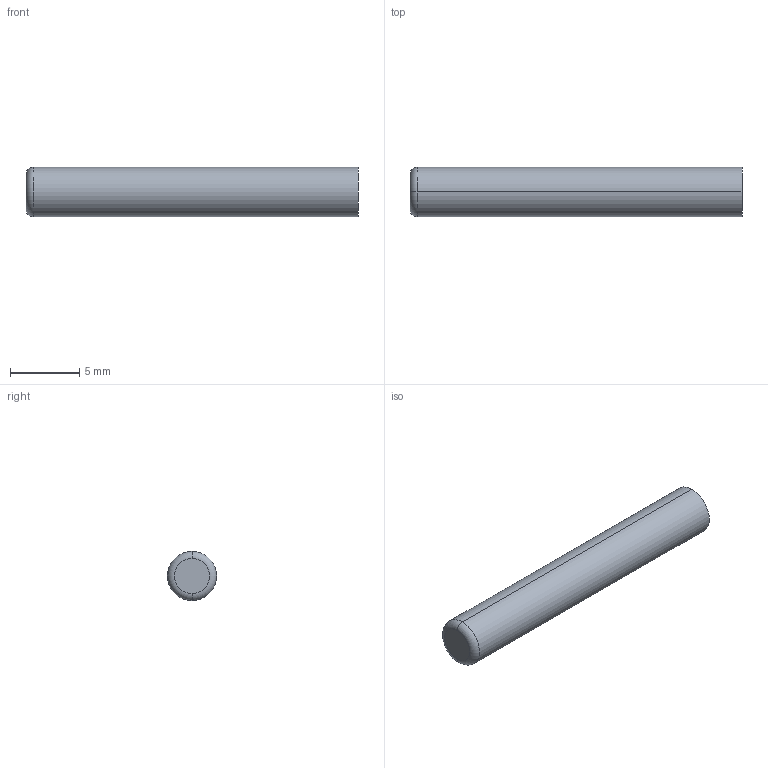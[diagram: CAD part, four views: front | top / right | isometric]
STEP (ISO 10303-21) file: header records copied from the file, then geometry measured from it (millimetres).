
FILE_DESCRIPTION (( 'STEP AP203' ), '1' );
FILE_NAME ('japanese-gun-001-recoil-lever.STEP', '2013-11-16T22:56:27', ( 'Kirk' ), ( 'Microsoft' ), 'SwSTEP 2.0', 'SolidWorks 2012', '' );
FILE_SCHEMA (( 'CONFIG_CONTROL_DESIGN' ));
Length unit declared in the file: inch
Products named in the file (1): japanese-gun-001-recoil-lever
Bounding box: 24 x 3.56 x 3.56 mm (x, y, z)
Volume: 237.8 mm3; surface area: 285.5 mm2
Topology: 1 solids, 1 shells, 6 faces, 10 edges, 6 vertices
Faces by surface type: torus 2, cylinder 2, plane 2
Entity records: 225 total; most frequent: DIRECTION 32, CARTESIAN_POINT 23, ORIENTED_EDGE 20, AXIS2_PLACEMENT_3D 15, EDGE_CURVE 10, PERSON_AND_ORGANIZATION 8, CIRCLE 8, ADVANCED_FACE 6
